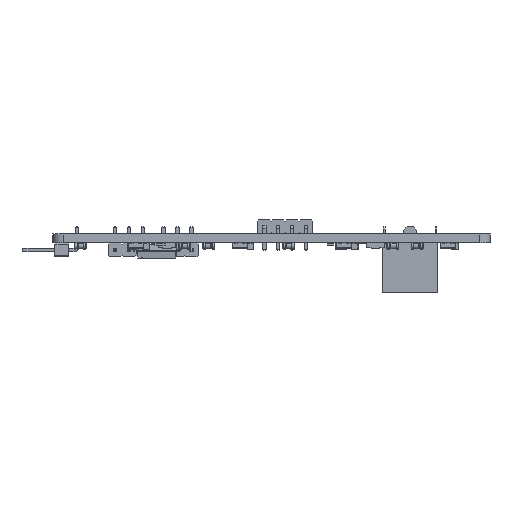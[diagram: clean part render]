
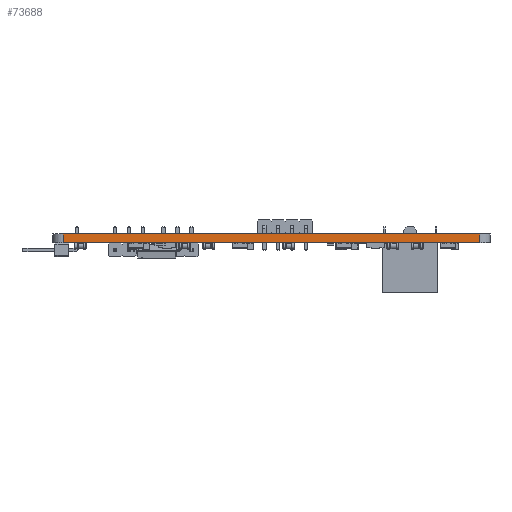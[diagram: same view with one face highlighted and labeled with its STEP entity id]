
A CAD part, left-side view. The second image highlights one B-rep face of the part: STEP entity #73688.
In plain terms, the highlighted planar face has unit normal (-1, 0, 0).
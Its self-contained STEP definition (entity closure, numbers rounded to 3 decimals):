
#55535 = PLANE('',#55536);
#55536 = AXIS2_PLACEMENT_3D('',#55537,#55538,#55539);
#55537 = CARTESIAN_POINT('',(0.323,-0.454,1.6));
#55538 = DIRECTION('',(0.,0.,1.));
#55539 = DIRECTION('',(1.,0.,0.));
#55563 = CYLINDRICAL_SURFACE('',#55564,1.905);
#55564 = AXIS2_PLACEMENT_3D('',#55565,#55566,#55567);
#55565 = CARTESIAN_POINT('',(-66.675,38.1,0.));
#55566 = DIRECTION('',(0.,0.,-1.));
#55567 = DIRECTION('',(1.,0.,0.));
#55589 = PLANE('',#55590);
#55590 = AXIS2_PLACEMENT_3D('',#55591,#55592,#55593);
#55591 = CARTESIAN_POINT('',(0.323,-0.454,0.));
#55592 = DIRECTION('',(0.,0.,1.));
#55593 = DIRECTION('',(1.,0.,0.));
#55684 = VERTEX_POINT('',#55685);
#55685 = CARTESIAN_POINT('',(-68.58,38.1,1.6));
#55707 = EDGE_CURVE('',#55708,#55684,#55710,.T.);
#55708 = VERTEX_POINT('',#55709);
#55709 = CARTESIAN_POINT('',(-68.58,38.1,0.));
#55710 = SURFACE_CURVE('',#55711,(#55715,#55722),.PCURVE_S1.);
#55711 = LINE('',#55712,#55713);
#55712 = CARTESIAN_POINT('',(-68.58,38.1,0.));
#55713 = VECTOR('',#55714,1.);
#55714 = DIRECTION('',(0.,0.,1.));
#55715 = PCURVE('',#55563,#55716);
#55716 = DEFINITIONAL_REPRESENTATION('',(#55717),#55721);
#55717 = LINE('',#55718,#55719);
#55718 = CARTESIAN_POINT('',(-3.142,0.));
#55719 = VECTOR('',#55720,1.);
#55720 = DIRECTION('',(0.,-1.));
#55721 = ( GEOMETRIC_REPRESENTATION_CONTEXT(2) 
PARAMETRIC_REPRESENTATION_CONTEXT() REPRESENTATION_CONTEXT('2D SPACE',''
  ) );
#55722 = PCURVE('',#55723,#55728);
#55723 = PLANE('',#55724);
#55724 = AXIS2_PLACEMENT_3D('',#55725,#55726,#55727);
#55725 = CARTESIAN_POINT('',(-68.58,38.1,0.));
#55726 = DIRECTION('',(1.,0.,0.));
#55727 = DIRECTION('',(0.,-1.,0.));
#55728 = DEFINITIONAL_REPRESENTATION('',(#55729),#55733);
#55729 = LINE('',#55730,#55731);
#55730 = CARTESIAN_POINT('',(0.,0.));
#55731 = VECTOR('',#55732,1.);
#55732 = DIRECTION('',(0.,-1.));
#55733 = ( GEOMETRIC_REPRESENTATION_CONTEXT(2) 
PARAMETRIC_REPRESENTATION_CONTEXT() REPRESENTATION_CONTEXT('2D SPACE',''
  ) );
#55762 = EDGE_CURVE('',#55708,#55763,#55765,.T.);
#55763 = VERTEX_POINT('',#55764);
#55764 = CARTESIAN_POINT('',(-68.58,-38.1,0.));
#55765 = SURFACE_CURVE('',#55766,(#55770,#55777),.PCURVE_S1.);
#55766 = LINE('',#55767,#55768);
#55767 = CARTESIAN_POINT('',(-68.58,38.1,0.));
#55768 = VECTOR('',#55769,1.);
#55769 = DIRECTION('',(0.,-1.,0.));
#55770 = PCURVE('',#55589,#55771);
#55771 = DEFINITIONAL_REPRESENTATION('',(#55772),#55776);
#55772 = LINE('',#55773,#55774);
#55773 = CARTESIAN_POINT('',(-68.903,38.554));
#55774 = VECTOR('',#55775,1.);
#55775 = DIRECTION('',(0.,-1.));
#55776 = ( GEOMETRIC_REPRESENTATION_CONTEXT(2) 
PARAMETRIC_REPRESENTATION_CONTEXT() REPRESENTATION_CONTEXT('2D SPACE',''
  ) );
#55777 = PCURVE('',#55723,#55778);
#55778 = DEFINITIONAL_REPRESENTATION('',(#55779),#55783);
#55779 = LINE('',#55780,#55781);
#55780 = CARTESIAN_POINT('',(0.,0.));
#55781 = VECTOR('',#55782,1.);
#55782 = DIRECTION('',(1.,0.));
#55783 = ( GEOMETRIC_REPRESENTATION_CONTEXT(2) 
PARAMETRIC_REPRESENTATION_CONTEXT() REPRESENTATION_CONTEXT('2D SPACE',''
  ) );
#55802 = CYLINDRICAL_SURFACE('',#55803,1.905);
#55803 = AXIS2_PLACEMENT_3D('',#55804,#55805,#55806);
#55804 = CARTESIAN_POINT('',(-66.675,-38.1,0.));
#55805 = DIRECTION('',(0.,0.,-1.));
#55806 = DIRECTION('',(1.,0.,0.));
#65527 = EDGE_CURVE('',#55684,#65528,#65530,.T.);
#65528 = VERTEX_POINT('',#65529);
#65529 = CARTESIAN_POINT('',(-68.58,-38.1,1.6));
#65530 = SURFACE_CURVE('',#65531,(#65535,#65542),.PCURVE_S1.);
#65531 = LINE('',#65532,#65533);
#65532 = CARTESIAN_POINT('',(-68.58,38.1,1.6));
#65533 = VECTOR('',#65534,1.);
#65534 = DIRECTION('',(0.,-1.,0.));
#65535 = PCURVE('',#55535,#65536);
#65536 = DEFINITIONAL_REPRESENTATION('',(#65537),#65541);
#65537 = LINE('',#65538,#65539);
#65538 = CARTESIAN_POINT('',(-68.903,38.554));
#65539 = VECTOR('',#65540,1.);
#65540 = DIRECTION('',(0.,-1.));
#65541 = ( GEOMETRIC_REPRESENTATION_CONTEXT(2) 
PARAMETRIC_REPRESENTATION_CONTEXT() REPRESENTATION_CONTEXT('2D SPACE',''
  ) );
#65542 = PCURVE('',#55723,#65543);
#65543 = DEFINITIONAL_REPRESENTATION('',(#65544),#65548);
#65544 = LINE('',#65545,#65546);
#65545 = CARTESIAN_POINT('',(0.,-1.6));
#65546 = VECTOR('',#65547,1.);
#65547 = DIRECTION('',(1.,0.));
#65548 = ( GEOMETRIC_REPRESENTATION_CONTEXT(2) 
PARAMETRIC_REPRESENTATION_CONTEXT() REPRESENTATION_CONTEXT('2D SPACE',''
  ) );
#73688 = ADVANCED_FACE('',(#73689),#55723,.F.);
#73689 = FACE_BOUND('',#73690,.F.);
#73690 = EDGE_LOOP('',(#73691,#73692,#73693,#73714));
#73691 = ORIENTED_EDGE('',*,*,#55707,.T.);
#73692 = ORIENTED_EDGE('',*,*,#65527,.T.);
#73693 = ORIENTED_EDGE('',*,*,#73694,.F.);
#73694 = EDGE_CURVE('',#55763,#65528,#73695,.T.);
#73695 = SURFACE_CURVE('',#73696,(#73700,#73707),.PCURVE_S1.);
#73696 = LINE('',#73697,#73698);
#73697 = CARTESIAN_POINT('',(-68.58,-38.1,0.));
#73698 = VECTOR('',#73699,1.);
#73699 = DIRECTION('',(0.,0.,1.));
#73700 = PCURVE('',#55723,#73701);
#73701 = DEFINITIONAL_REPRESENTATION('',(#73702),#73706);
#73702 = LINE('',#73703,#73704);
#73703 = CARTESIAN_POINT('',(76.2,0.));
#73704 = VECTOR('',#73705,1.);
#73705 = DIRECTION('',(0.,-1.));
#73706 = ( GEOMETRIC_REPRESENTATION_CONTEXT(2) 
PARAMETRIC_REPRESENTATION_CONTEXT() REPRESENTATION_CONTEXT('2D SPACE',''
  ) );
#73707 = PCURVE('',#55802,#73708);
#73708 = DEFINITIONAL_REPRESENTATION('',(#73709),#73713);
#73709 = LINE('',#73710,#73711);
#73710 = CARTESIAN_POINT('',(-3.142,0.));
#73711 = VECTOR('',#73712,1.);
#73712 = DIRECTION('',(0.,-1.));
#73713 = ( GEOMETRIC_REPRESENTATION_CONTEXT(2) 
PARAMETRIC_REPRESENTATION_CONTEXT() REPRESENTATION_CONTEXT('2D SPACE',''
  ) );
#73714 = ORIENTED_EDGE('',*,*,#55762,.F.);
